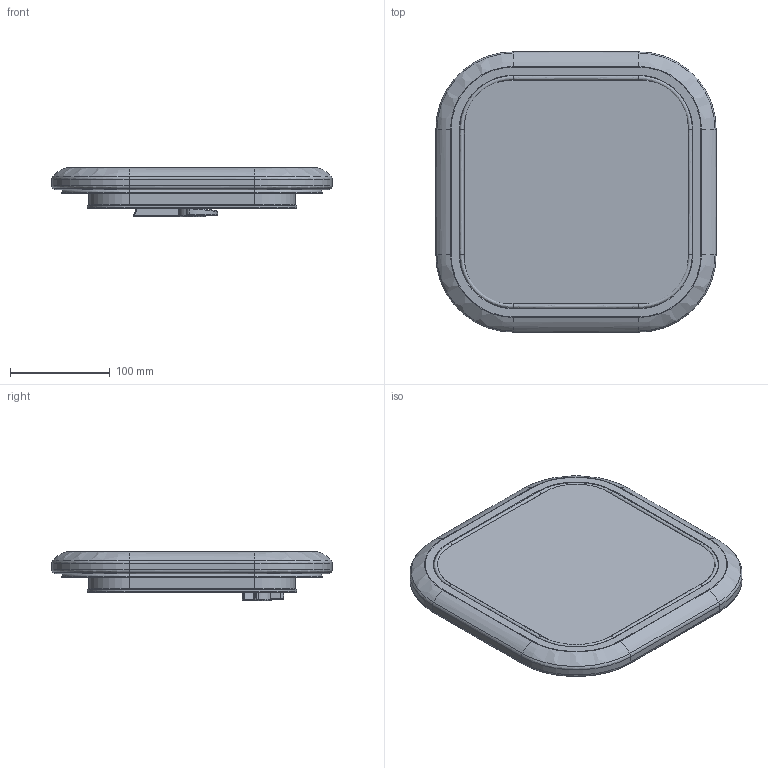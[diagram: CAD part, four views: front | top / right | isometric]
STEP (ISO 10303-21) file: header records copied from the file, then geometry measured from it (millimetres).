
FILE_DESCRIPTION((''),'2;1');
FILE_NAME('LEWMAR-HATCH-LOWPRO-00_ASM','2008-02-04T',('skennedy'),(''),'PRO/ENGINEER BY PARAMETRIC TECHNOLOGY CORPORATION, 2007030','PRO/ENGINEER BY PARAMETRIC TECHNOLOGY CORPORATION, 2007030','');
FILE_SCHEMA(('CONFIG_CONTROL_DESIGN'));
Length unit declared in the file: millimetre
Products named in the file (4): FRAME_00; 3590053X; SMALL_HANDLE_RHS_SW0001; LEWMAR-HATCH-LOWPRO-00_ASM
Assembly tree (3 placements, depth 2):
  LEWMAR-HATCH-LOWPRO-00_ASM
    FRAME_00
    3590053X
    SMALL_HANDLE_RHS_SW0001
Bounding box: 281 x 281 x 49.99 mm (x, y, z)
Volume: 1132669.2 mm3; surface area: 286557.6 mm2
Topology: 4 solids, 4 shells, 438 faces, 973 edges, 558 vertices
Faces by surface type: bspline 245, plane 99, cylinder 66, cone 14, torus 8, sphere 6
Entity records: 20364 total; most frequent: CARTESIAN_POINT 11766, ORIENTED_EDGE 1946, DIRECTION 1392, EDGE_CURVE 973, VERTEX_POINT 558, AXIS2_PLACEMENT_3D 494, EDGE_LOOP 455, FACE_OUTER_BOUND 438
